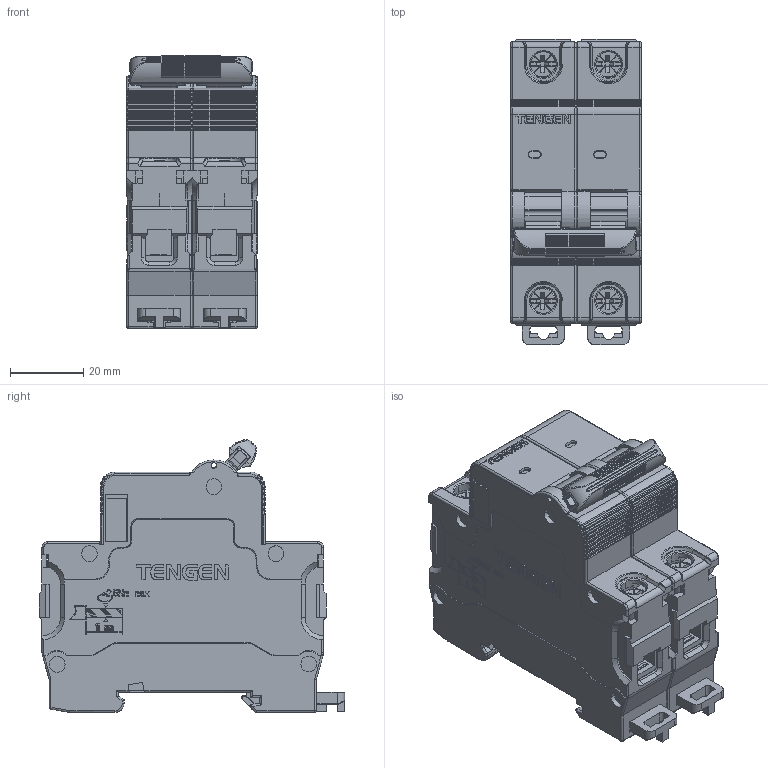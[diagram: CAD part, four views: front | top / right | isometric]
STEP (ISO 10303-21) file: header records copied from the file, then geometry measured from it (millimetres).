
FILE_DESCRIPTION (( 'STEP AP214' ), '1' );
FILE_NAME ('TGH1N-125 2P.STEP', '2025-12-12T13:13:02', ( '' ), ( '' ), 'SwSTEP 2.0', 'SolidWorks 2024', '' );
FILE_SCHEMA (( 'AUTOMOTIVE_DESIGN' ));
Length unit declared in the file: millimetre
Products named in the file (4): 2P_1_1.stp; TGH1N-125 2P.stp; 2P_2_1.stp; TGH1N-125 2P
Assembly tree (3 placements, depth 3):
  TGH1N-125 2P
    TGH1N-125 2P.stp
      2P_1_1.stp
      2P_2_1.stp
Bounding box: 35.6 x 83.15 x 74.37 mm (x, y, z)
Volume: 135160.5 mm3; surface area: 44514.7 mm2
Topology: 2 solids, 5 shells, 6342 faces, 17175 edges, 10943 vertices
Faces by surface type: plane 4194, cylinder 1159, bspline 435, torus 392, cone 140, sphere 22
Entity records: 224437 total; most frequent: CARTESIAN_POINT 68702, ORIENTED_EDGE 34304, DIRECTION 29624, EDGE_CURVE 17152, VECTOR 12344, LINE 12344, VERTEX_POINT 10943, AXIS2_PLACEMENT_3D 8640
